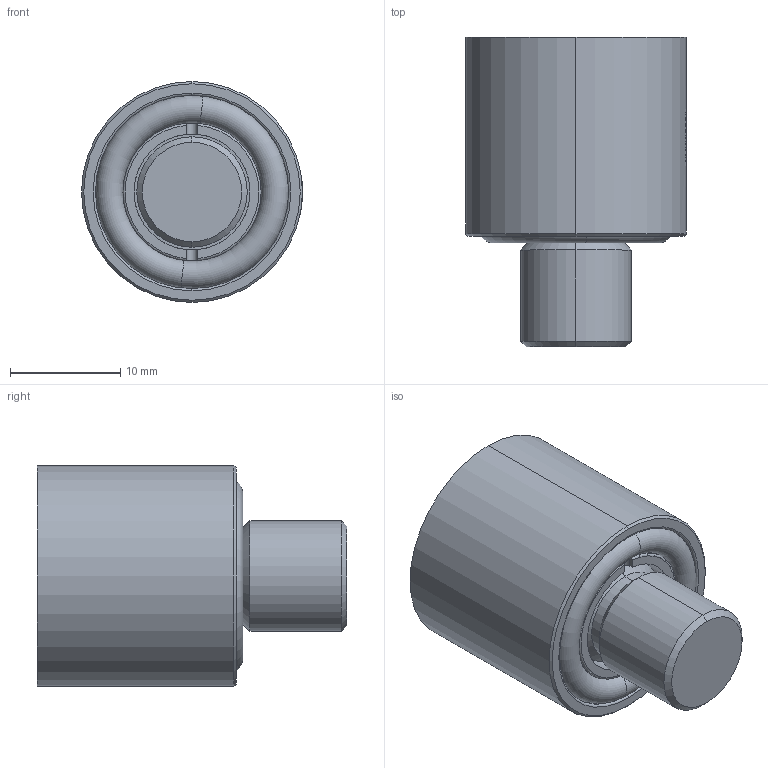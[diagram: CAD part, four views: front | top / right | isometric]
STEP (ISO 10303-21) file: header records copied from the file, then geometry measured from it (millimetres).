
FILE_DESCRIPTION (( 'STEP AP214' ), '1' );
FILE_NAME ('SA200018.STEP', '2018-04-09T10:10:33', ( '' ), ( '' ), 'SwSTEP 2.0', 'SolidWorks 2017', '' );
FILE_SCHEMA (( 'AUTOMOTIVE_DESIGN' ));
Length unit declared in the file: millimetre
Products named in the file (5): SA200018; 9SA200018-I_acabado; 9SA200018-T; JT12.5x2.5; 9SA200018-C_acabado
Assembly tree (4 placements, depth 2):
  SA200018
    9SA200018-C_acabado
    9SA200018-I_acabado
    9SA200018-T
    JT12.5x2.5
Bounding box: 20 x 28 x 20 mm (x, y, z)
Volume: 5936.3 mm3; surface area: 4141.1 mm2
Topology: 4 solids, 4 shells, 431 faces, 1135 edges, 741 vertices
Faces by surface type: bspline 238, plane 102, cylinder 57, cone 22, torus 12
Entity records: 26492 total; most frequent: CARTESIAN_POINT 14108, ORIENTED_EDGE 2266, EDGE_CURVE 1133, DIRECTION 854, B_SPLINE_CURVE_WITH_KNOTS 793, VERTEX_POINT 741, EDGE_LOOP 468, ADVANCED_FACE 431
